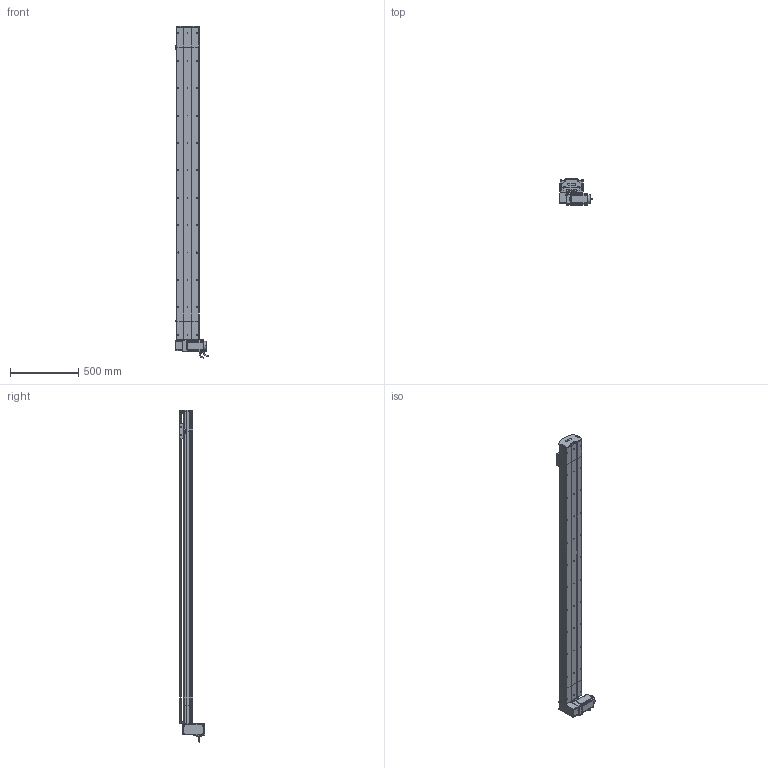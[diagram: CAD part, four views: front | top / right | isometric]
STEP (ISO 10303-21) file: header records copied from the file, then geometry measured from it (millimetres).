
FILE_DESCRIPTION (( 'STEP AP214' ), '1' );
FILE_NAME ('D17 TBN RU S2000.STEP', '2010-06-30T11:22:20', ( 'Christophe Gaillard' ), ( 'SGA' ), 'SwSTEP 2.0', 'SolidWorks 2010', '' );
FILE_SCHEMA (( 'AUTOMOTIVE_DESIGN' ));
Length unit declared in the file: millimetre
Products named in the file (40): vis M5 L8 90°_Default; Vis M5 L16-2_Default; poulie head_Default; couroie head D17_Default; Moteur motionking 90BLDC125A-640; avant 90BLDC125A-640; Couroie tail D17B_Default; Conecteur_Default; Arbre+rail head D17B; Tail D17B_Default; vis M5 L25_Default; vis M5 L5_Default; tete d''axe poulie D17B; Rail D17B; plaque de  bout tail D17B_Default; poulie tail_Default; corpl head D17 _Default; Conecteur2_Default; Head RU D17B_Default; plaque de  bout head D17B RU_Default; D17 TBN RU S2000; guide D17; Chariot D17 TBN; chariot D17 TBN; vis M5 L16_Default; Renvoi RU_Default; couvercle D17B course L2000_Default; couvercle D17B head_Default; cache arbre D17_Default; Couroie+ rail D17 Course 2000 ; vis M5 L70_Default; Plaque racord D17_Default; couvercle D17B_Default; corps 90BLDC125A-640; vis M5 L12_Default; cache D17_Default; corpl tail D17B_Default; course 2000 D17B_Default; corp D17B 2000_Default; codeur 90BLDC125-640
Assembly tree (66 placements, depth 4):
  D17 TBN RU S2000
    chariot D17 TBN
      Chariot D17 TBN
      guide D17  x2
    course 2000 D17B_Default
      Couroie+ rail D17 Course 2000 
      couvercle D17B course L2000_Default
      corp D17B 2000_Default
    Head RU D17B_Default
      vis M5 L25_Default  x2
      cache D17_Default  x2
      vis M5 L12_Default  x8
      vis M5 L70_Default  x4
      corpl head D17 _Default
      couvercle D17B head_Default
      Vis M5 L16-2_Default  x4
      vis M5 L16_Default  x2
      vis M5 L5_Default  x4
      Moteur motionking 90BLDC125A-640
        Conecteur_Default
        avant 90BLDC125A-640
        corps 90BLDC125A-640
        Conecteur2_Default
        codeur 90BLDC125-640
      Renvoi RU_Default
      couroie head D17_Default
      cache arbre D17_Default
      Plaque racord D17_Default
      Arbre+rail head D17B
      poulie head_Default
      plaque de  bout head D17B RU_Default
    Tail D17B_Default
      vis M5 L25_Default  x2
      vis M5 L8 90°_Default  x2
      corpl tail D17B_Default
      Couroie tail D17B_Default
      vis M5 L12_Default  x4
      plaque de  bout tail D17B_Default
      Rail D17B
      couvercle D17B_Default
      tete d''axe poulie D17B
      poulie tail_Default
Bounding box: 245.2 x 188.65 x 2423.95 mm (x, y, z)
Volume: 14177650 mm3; surface area: 4088889.8 mm2
Topology: 89 solids, 89 shells, 2591 faces, 6605 edges, 4258 vertices
Faces by surface type: plane 1533, cylinder 761, bspline 136, cone 80, torus 77, sphere 4
Entity records: 83891 total; most frequent: CARTESIAN_POINT 25019, ORIENTED_EDGE 10382, DIRECTION 9812, EDGE_CURVE 5191, VECTOR 3442, LINE 3442, VERTEX_POINT 3402, AXIS2_PLACEMENT_3D 3185
